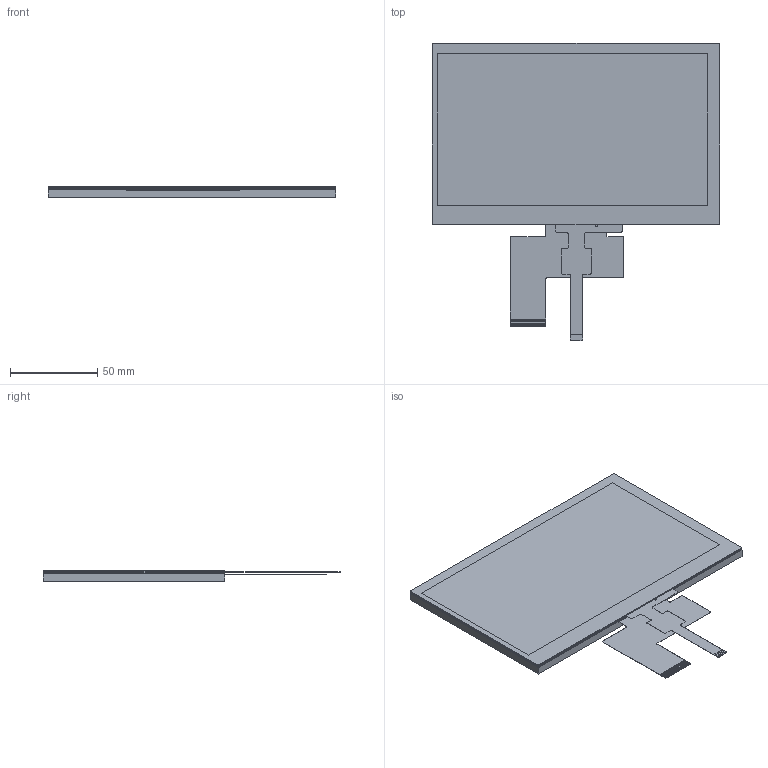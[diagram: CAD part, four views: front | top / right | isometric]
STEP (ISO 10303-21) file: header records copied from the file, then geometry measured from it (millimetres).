
FILE_DESCRIPTION (( 'STEP AP214' ), '1' );
FILE_NAME ('NHD-7.0-1024600AF-LSXP-CTP.STEP', '2019-05-31T14:45:20', ( '' ), ( '' ), 'SwSTEP 2.0', 'SolidWorks 2018', '' );
FILE_SCHEMA (( 'AUTOMOTIVE_DESIGN' ));
Length unit declared in the file: millimetre
Products named in the file (3): NHD-7.0-1024600AF-LSXP-CTP; NHD-CTP-7.0K-HR; NHD-7.0-1024600AF-LSXP
Assembly tree (2 placements, depth 2):
  NHD-7.0-1024600AF-LSXP-CTP
    NHD-7.0-1024600AF-LSXP
    NHD-CTP-7.0K-HR
Bounding box: 165 x 170.49 x 6.2 mm (x, y, z)
Volume: 98953.5 mm3; surface area: 147781.3 mm2
Topology: 9 solids, 9 shells, 332 faces, 933 edges, 622 vertices
Faces by surface type: plane 303, cylinder 29
Entity records: 12179 total; most frequent: CARTESIAN_POINT 1892, ORIENTED_EDGE 1866, DIRECTION 1665, EDGE_CURVE 933, LINE 875, VECTOR 875, VERTEX_POINT 622, AXIS2_PLACEMENT_3D 395
